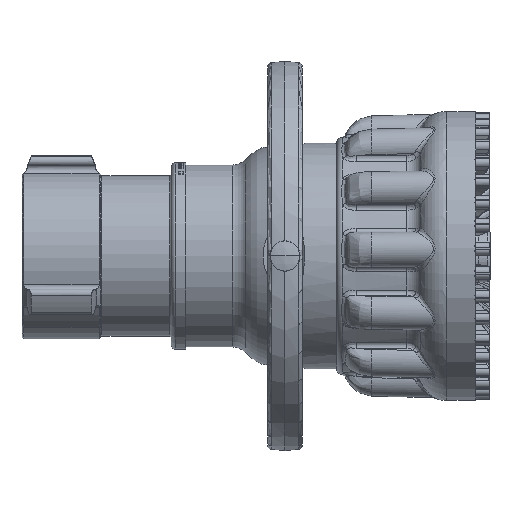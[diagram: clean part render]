
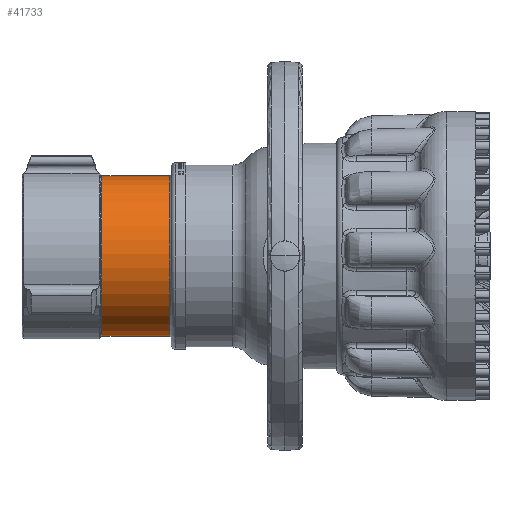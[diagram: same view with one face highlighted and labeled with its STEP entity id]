
A CAD part, front view. The second image highlights one B-rep face of the part: STEP entity #41733.
In plain terms, the highlighted cylindrical face has radius 43.688 mm (diameter 87.376 mm), a partial arc.
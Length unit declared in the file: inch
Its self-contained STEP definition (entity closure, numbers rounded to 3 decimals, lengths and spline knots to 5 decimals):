
#11486 = LINE ( 'NONE', #62833, #11490 ) ;
#11488 = LINE ( 'NONE', #62861, #11498 ) ;
#11490 = VECTOR ( 'NONE', #62849, 39.37008 ) ;
#11498 = VECTOR ( 'NONE', #62856, 39.37008 ) ;
#11516 = CIRCLE ( 'NONE', #24978, 1.72 ) ;
#11532 = CIRCLE ( 'NONE', #24982, 1.72 ) ;
#17136 = ORIENTED_EDGE ( 'NONE', *, *, #39856, .F. ) ;
#17137 = ORIENTED_EDGE ( 'NONE', *, *, #39873, .T. ) ;
#17138 = ORIENTED_EDGE ( 'NONE', *, *, #39859, .T. ) ;
#17139 = ORIENTED_EDGE ( 'NONE', *, *, #39869, .F. ) ;
#20767 = DIRECTION ( 'NONE',  ( 0., 0.03, 1. ) ) ;
#20769 = DIRECTION ( 'NONE',  ( -1., 0., 0. ) ) ;
#20771 = CARTESIAN_POINT ( 'NONE',  ( -3.21665, 0., 0. ) ) ;
#24978 = AXIS2_PLACEMENT_3D ( 'NONE', #62887, #62888, #62889 ) ;
#24982 = AXIS2_PLACEMENT_3D ( 'NONE', #62899, #62900, #62901 ) ;
#39856 = EDGE_CURVE ( 'NONE', #63272, #63267, #11486, .T. ) ;
#39859 = EDGE_CURVE ( 'NONE', #63334, #63268, #11488, .T. ) ;
#39869 = EDGE_CURVE ( 'NONE', #63267, #63268, #11516, .T. ) ;
#39873 = EDGE_CURVE ( 'NONE', #63272, #63334, #11532, .T. ) ;
#41733 = ADVANCED_FACE ( 'NONE', ( #43799 ), #43806, .T. ) ;
#43799 = FACE_OUTER_BOUND ( 'NONE', #63894, .T. ) ;
#43806 = CYLINDRICAL_SURFACE ( 'NONE', #61816, 1.72 ) ;
#55553 = CARTESIAN_POINT ( 'NONE',  ( -1.485, -0.05187, -1.71922 ) ) ;
#55554 = CARTESIAN_POINT ( 'NONE',  ( -1.485, 0.05187, 1.71922 ) ) ;
#55557 = CARTESIAN_POINT ( 'NONE',  ( -0.03, -0.05187, -1.71922 ) ) ;
#55595 = CARTESIAN_POINT ( 'NONE',  ( -0.03, 0.05187, 1.71922 ) ) ;
#61816 = AXIS2_PLACEMENT_3D ( 'NONE', #20771, #20769, #20767 ) ;
#62833 = CARTESIAN_POINT ( 'NONE',  ( -3.21665, -0.05187, -1.71922 ) ) ;
#62849 = DIRECTION ( 'NONE',  ( -1., 0., 0. ) ) ;
#62856 = DIRECTION ( 'NONE',  ( -1., 0., 0. ) ) ;
#62861 = CARTESIAN_POINT ( 'NONE',  ( -3.21665, 0.05187, 1.71922 ) ) ;
#62887 = CARTESIAN_POINT ( 'NONE',  ( -1.485, 0., 0. ) ) ;
#62888 = DIRECTION ( 'NONE',  ( -1., 0., 0. ) ) ;
#62889 = DIRECTION ( 'NONE',  ( 0., 0.03, 1. ) ) ;
#62899 = CARTESIAN_POINT ( 'NONE',  ( -0.03, 0., 0. ) ) ;
#62900 = DIRECTION ( 'NONE',  ( -1., 0., 0. ) ) ;
#62901 = DIRECTION ( 'NONE',  ( 0., 0.03, 1. ) ) ;
#63267 = VERTEX_POINT ( 'NONE', #55553 ) ;
#63268 = VERTEX_POINT ( 'NONE', #55554 ) ;
#63272 = VERTEX_POINT ( 'NONE', #55557 ) ;
#63334 = VERTEX_POINT ( 'NONE', #55595 ) ;
#63894 = EDGE_LOOP ( 'NONE', ( #17136, #17137, #17138, #17139 ) ) ;
